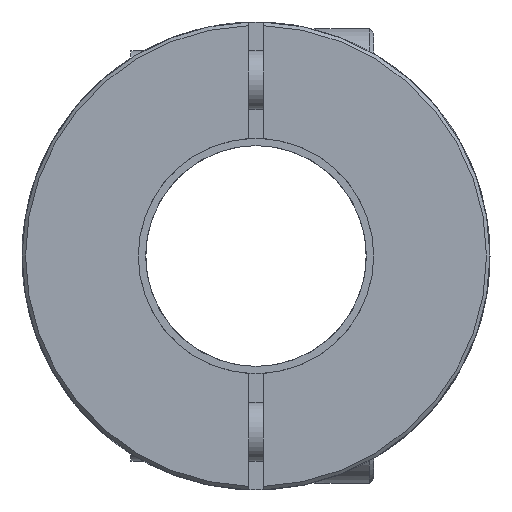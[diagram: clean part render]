
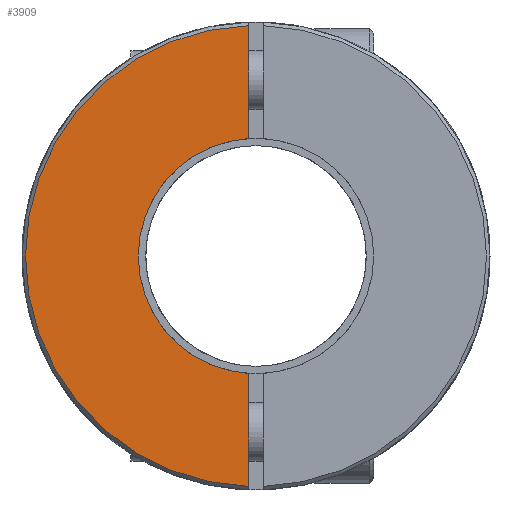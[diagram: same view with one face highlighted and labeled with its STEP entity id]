
A CAD part, front view. The second image highlights one B-rep face of the part: STEP entity #3909.
In plain terms, the highlighted planar face has unit normal (0, -1, 0).
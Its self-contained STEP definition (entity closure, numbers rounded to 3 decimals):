
#1=DIRECTION('',(0.,0.,-1.));
#2=VECTOR('',#1,7.668);
#3=CARTESIAN_POINT('',(-0.5,-28.6,15.652));
#4=LINE('',#3,#2);
#5=DIRECTION('',(0.,0.,-1.));
#6=VECTOR('',#5,7.668);
#7=CARTESIAN_POINT('',(-0.5,-28.6,-7.984));
#8=LINE('',#7,#6);
#72=CARTESIAN_POINT('',(0.,-28.6,0.));
#73=DIRECTION('',(0.,1.,0.));
#74=DIRECTION('',(-0.063,0.,-0.998));
#75=AXIS2_PLACEMENT_3D('',#72,#73,#74);
#2947=CARTESIAN_POINT('',(0.,-28.6,0.));
#2948=DIRECTION('',(0.,-1.,0.));
#2949=DIRECTION('',(-0.032,0.,0.999));
#2950=AXIS2_PLACEMENT_3D('',#2947,#2948,#2949);
#3560=CARTESIAN_POINT('',(-0.5,-28.6,15.652));
#3561=CARTESIAN_POINT('',(-0.5,-28.6,7.984));
#3562=VERTEX_POINT('',#3560);
#3563=VERTEX_POINT('',#3561);
#3564=CARTESIAN_POINT('',(-0.5,-28.6,-7.984));
#3565=CARTESIAN_POINT('',(-0.5,-28.6,-15.652));
#3566=VERTEX_POINT('',#3564);
#3567=VERTEX_POINT('',#3565);
#3894=CARTESIAN_POINT('',(0.,-28.6,0.));
#3895=DIRECTION('',(0.,1.,0.));
#3896=DIRECTION('',(1.,0.,0.));
#3897=AXIS2_PLACEMENT_3D('',#3894,#3895,#3896);
#3898=PLANE('',#3897);
#3900=ORIENTED_EDGE('',*,*,#3899,.T.);
#3902=ORIENTED_EDGE('',*,*,#3901,.F.);
#3904=ORIENTED_EDGE('',*,*,#3903,.T.);
#3906=ORIENTED_EDGE('',*,*,#3905,.F.);
#3907=EDGE_LOOP('',(#3900,#3902,#3904,#3906));
#3908=FACE_OUTER_BOUND('',#3907,.F.);
#3909=ADVANCED_FACE('',(#3908),#3898,.F.);
#76=CIRCLE('',#75,8.);
#2951=CIRCLE('',#2950,15.66);
#3899=EDGE_CURVE('',#3562,#3563,#4,.T.);
#3901=EDGE_CURVE('',#3566,#3563,#76,.T.);
#3903=EDGE_CURVE('',#3566,#3567,#8,.T.);
#3905=EDGE_CURVE('',#3562,#3567,#2951,.T.);
